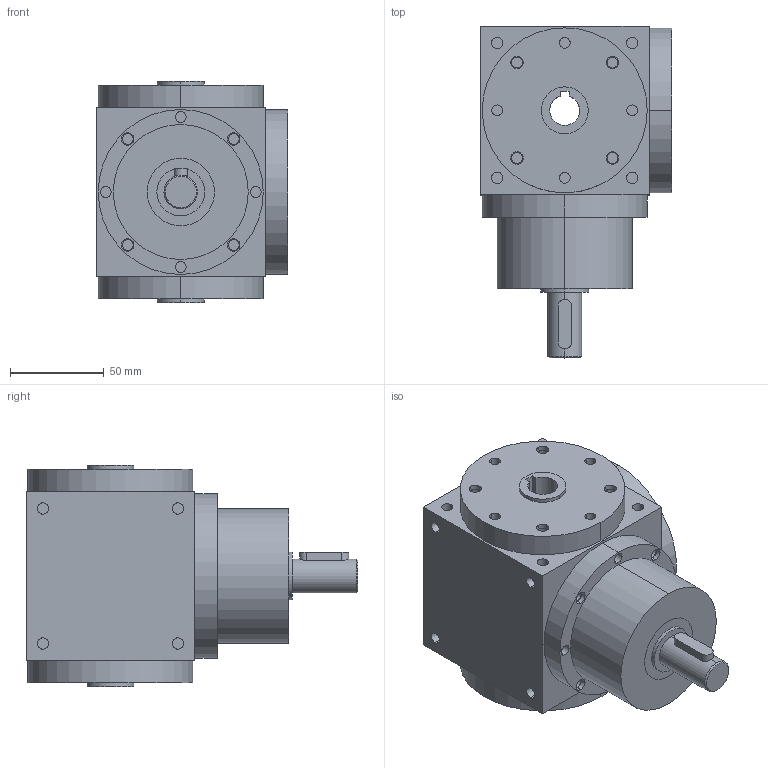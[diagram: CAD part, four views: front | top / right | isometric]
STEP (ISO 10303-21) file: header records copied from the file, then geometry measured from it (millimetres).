
FILE_DESCRIPTION (( 'STEP AP203' ), '1' );
FILE_NAME ('HDA-09-1-E.step', '2018-05-15T02:04:53', ( 'Windows 蚚誧' ), ( '' ), 'SwSTEP 2.0', 'SolidWorks 2016', '' );
FILE_SCHEMA (( 'CONFIG_CONTROL_DESIGN' ));
Length unit declared in the file: millimetre
Products named in the file (1): HDA-09-1-E
Bounding box: 102 x 177 x 118 mm (x, y, z)
Volume: 1154134.5 mm3; surface area: 120890 mm2
Topology: 4 solids, 4 shells, 218 faces, 453 edges, 302 vertices
Faces by surface type: cylinder 133, plane 83, cone 2
Entity records: 6068 total; most frequent: DIRECTION 1155, CARTESIAN_POINT 1042, ORIENTED_EDGE 906, AXIS2_PLACEMENT_3D 487, EDGE_CURVE 453, VERTEX_POINT 302, EDGE_LOOP 283, CIRCLE 268
